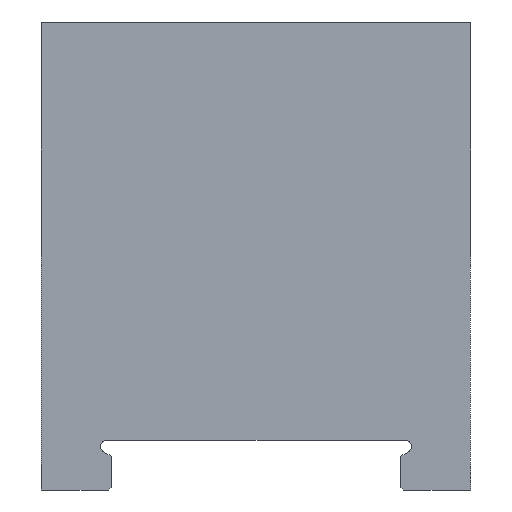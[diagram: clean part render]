
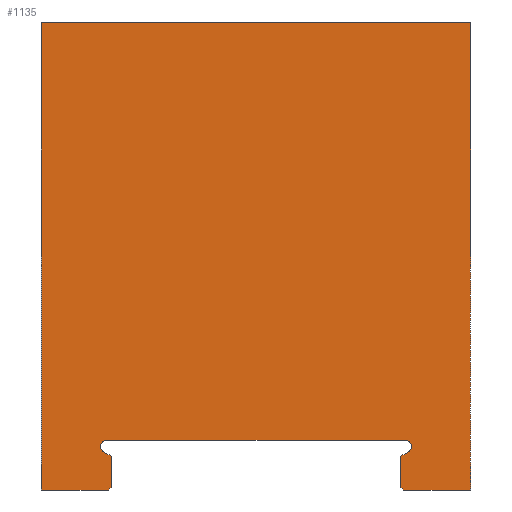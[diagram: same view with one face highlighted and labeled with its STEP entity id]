
A CAD part, front view. The second image highlights one B-rep face of the part: STEP entity #1135.
In plain terms, the highlighted planar face has unit normal (0, -1, 0).
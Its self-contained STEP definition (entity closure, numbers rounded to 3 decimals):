
#3 = CARTESIAN_POINT ( 'NONE',  ( -38.5, -62.5, 84. ) ) ;
#26 = VERTEX_POINT ( 'NONE', #567 ) ;
#28 = CARTESIAN_POINT ( 'NONE',  ( 38.5, -62.5, 84. ) ) ;
#31 = CARTESIAN_POINT ( 'NONE',  ( -26., -62.5, 0.5 ) ) ;
#45 = DIRECTION ( 'NONE',  ( 1., 0., 0. ) ) ;
#59 = EDGE_CURVE ( 'NONE', #993, #337, #917, .T. ) ;
#61 = ORIENTED_EDGE ( 'NONE', *, *, #1255, .T. ) ;
#66 = VERTEX_POINT ( 'NONE', #584 ) ;
#81 = DIRECTION ( 'NONE',  ( 0.707, 0., 0.707 ) ) ;
#88 = DIRECTION ( 'NONE',  ( 1., 0., 0. ) ) ;
#98 = VECTOR ( 'NONE', #804, 1000. ) ;
#100 = ORIENTED_EDGE ( 'NONE', *, *, #305, .F. ) ;
#107 = ORIENTED_EDGE ( 'NONE', *, *, #531, .F. ) ;
#122 = CARTESIAN_POINT ( 'NONE',  ( 38.5, -62.5, 84. ) ) ;
#135 = DIRECTION ( 'NONE',  ( 0., 0., 1. ) ) ;
#141 = CARTESIAN_POINT ( 'NONE',  ( -26.795, -62.5, 8.9 ) ) ;
#168 = CARTESIAN_POINT ( 'NONE',  ( -26.5, -62.5, 0. ) ) ;
#185 = ORIENTED_EDGE ( 'NONE', *, *, #808, .F. ) ;
#196 = VECTOR ( 'NONE', #896, 1000. ) ;
#233 = CARTESIAN_POINT ( 'NONE',  ( 26., -62.5, 0.5 ) ) ;
#267 = DIRECTION ( 'NONE',  ( 1., 0., 0. ) ) ;
#285 = CARTESIAN_POINT ( 'NONE',  ( 26.5, -62.5, 0. ) ) ;
#305 = EDGE_CURVE ( 'NONE', #1188, #1122, #675, .T. ) ;
#306 = LINE ( 'NONE', #867, #679 ) ;
#337 = VERTEX_POINT ( 'NONE', #630 ) ;
#350 = CARTESIAN_POINT ( 'NONE',  ( -26.795, -62.5, 7.8 ) ) ;
#364 = DIRECTION ( 'NONE',  ( 0., 0., 1. ) ) ;
#366 = DIRECTION ( 'NONE',  ( 0., 0., 1. ) ) ;
#378 = ORIENTED_EDGE ( 'NONE', *, *, #525, .T. ) ;
#398 = LINE ( 'NONE', #764, #735 ) ;
#435 = CARTESIAN_POINT ( 'NONE',  ( -26., -62.5, 6.071 ) ) ;
#437 = EDGE_CURVE ( 'NONE', #1170, #448, #1173, .T. ) ;
#448 = VERTEX_POINT ( 'NONE', #141 ) ;
#504 = CIRCLE ( 'NONE', #1072, 1.1 ) ;
#508 = CARTESIAN_POINT ( 'NONE',  ( -38.5, -62.5, 84. ) ) ;
#515 = LINE ( 'NONE', #1207, #98 ) ;
#525 = EDGE_CURVE ( 'NONE', #337, #861, #398, .T. ) ;
#531 = EDGE_CURVE ( 'NONE', #26, #1075, #306, .T. ) ;
#535 = CARTESIAN_POINT ( 'NONE',  ( 26.795, -62.5, 7.8 ) ) ;
#540 = CARTESIAN_POINT ( 'NONE',  ( 26.795, -62.5, 8.9 ) ) ;
#542 = ORIENTED_EDGE ( 'NONE', *, *, #823, .F. ) ;
#544 = DIRECTION ( 'NONE',  ( 0.866, 0., 0.5 ) ) ;
#560 = VECTOR ( 'NONE', #88, 1000. ) ;
#567 = CARTESIAN_POINT ( 'NONE',  ( 26., -62.5, 6.071 ) ) ;
#570 = ORIENTED_EDGE ( 'NONE', *, *, #627, .F. ) ;
#584 = CARTESIAN_POINT ( 'NONE',  ( -27.345, -62.5, 6.847 ) ) ;
#627 = EDGE_CURVE ( 'NONE', #448, #66, #858, .T. ) ;
#630 = CARTESIAN_POINT ( 'NONE',  ( 26.5, -62.5, 0. ) ) ;
#675 = LINE ( 'NONE', #1046, #1291 ) ;
#678 = VERTEX_POINT ( 'NONE', #776 ) ;
#679 = VECTOR ( 'NONE', #544, 1000. ) ;
#691 = ORIENTED_EDGE ( 'NONE', *, *, #740, .T. ) ;
#714 = VECTOR ( 'NONE', #267, 1000. ) ;
#723 = CARTESIAN_POINT ( 'NONE',  ( 38.5, -62.5, 0. ) ) ;
#735 = VECTOR ( 'NONE', #45, 1000. ) ;
#740 = EDGE_CURVE ( 'NONE', #874, #930, #515, .T. ) ;
#761 = CARTESIAN_POINT ( 'NONE',  ( -38.5, -62.5, 84. ) ) ;
#764 = CARTESIAN_POINT ( 'NONE',  ( -38.5, -62.5, 0. ) ) ;
#774 = ORIENTED_EDGE ( 'NONE', *, *, #437, .F. ) ;
#776 = CARTESIAN_POINT ( 'NONE',  ( -26.5, -62.5, 0. ) ) ;
#777 = EDGE_CURVE ( 'NONE', #678, #1122, #1260, .T. ) ;
#778 = DIRECTION ( 'NONE',  ( 0., -1., 0. ) ) ;
#788 = DIRECTION ( 'NONE',  ( 0., -1., 0. ) ) ;
#804 = DIRECTION ( 'NONE',  ( 0., 0., -1. ) ) ;
#808 = EDGE_CURVE ( 'NONE', #66, #1188, #986, .T. ) ;
#809 = AXIS2_PLACEMENT_3D ( 'NONE', #350, #788, #366 ) ;
#815 = CARTESIAN_POINT ( 'NONE',  ( -26., -62.5, 6.071 ) ) ;
#820 = FACE_OUTER_BOUND ( 'NONE', #1154, .T. ) ;
#823 = EDGE_CURVE ( 'NONE', #874, #1092, #1224, .T. ) ;
#829 = VECTOR ( 'NONE', #364, 1000. ) ;
#858 = CIRCLE ( 'NONE', #809, 1.1 ) ;
#861 = VERTEX_POINT ( 'NONE', #723 ) ;
#867 = CARTESIAN_POINT ( 'NONE',  ( 26., -62.5, 6.071 ) ) ;
#874 = VERTEX_POINT ( 'NONE', #3 ) ;
#892 = ORIENTED_EDGE ( 'NONE', *, *, #1310, .F. ) ;
#896 = DIRECTION ( 'NONE',  ( 0.707, 0., -0.707 ) ) ;
#905 = ORIENTED_EDGE ( 'NONE', *, *, #59, .T. ) ;
#917 = LINE ( 'NONE', #285, #196 ) ;
#930 = VERTEX_POINT ( 'NONE', #1132 ) ;
#932 = VECTOR ( 'NONE', #1157, 1000. ) ;
#956 = CARTESIAN_POINT ( 'NONE',  ( 26.795, -62.5, 8.9 ) ) ;
#959 = DIRECTION ( 'NONE',  ( 0., 1., 0. ) ) ;
#963 = DIRECTION ( 'NONE',  ( 0., 0., -1. ) ) ;
#986 = LINE ( 'NONE', #815, #1307 ) ;
#987 = ORIENTED_EDGE ( 'NONE', *, *, #1118, .F. ) ;
#989 = LINE ( 'NONE', #28, #1116 ) ;
#993 = VERTEX_POINT ( 'NONE', #233 ) ;
#1013 = ORIENTED_EDGE ( 'NONE', *, *, #1106, .F. ) ;
#1036 = VECTOR ( 'NONE', #81, 1000. ) ;
#1046 = CARTESIAN_POINT ( 'NONE',  ( -26., -62.5, -7. ) ) ;
#1056 = CARTESIAN_POINT ( 'NONE',  ( 27.345, -62.5, 6.847 ) ) ;
#1072 = AXIS2_PLACEMENT_3D ( 'NONE', #535, #778, #1272 ) ;
#1075 = VERTEX_POINT ( 'NONE', #1056 ) ;
#1089 = CARTESIAN_POINT ( 'NONE',  ( -38.5, -62.5, 0. ) ) ;
#1090 = ORIENTED_EDGE ( 'NONE', *, *, #777, .T. ) ;
#1092 = VERTEX_POINT ( 'NONE', #122 ) ;
#1100 = DIRECTION ( 'NONE',  ( 0.866, 0., -0.5 ) ) ;
#1106 = EDGE_CURVE ( 'NONE', #1075, #1170, #504, .T. ) ;
#1116 = VECTOR ( 'NONE', #963, 1000. ) ;
#1118 = EDGE_CURVE ( 'NONE', #1092, #861, #989, .T. ) ;
#1122 = VERTEX_POINT ( 'NONE', #31 ) ;
#1132 = CARTESIAN_POINT ( 'NONE',  ( -38.5, -62.5, 0. ) ) ;
#1133 = AXIS2_PLACEMENT_3D ( 'NONE', #761, #959, #135 ) ;
#1135 = ADVANCED_FACE ( 'NONE', ( #820 ), #1265, .F. ) ;
#1152 = DIRECTION ( 'NONE',  ( 0., 0., -1. ) ) ;
#1154 = EDGE_LOOP ( 'NONE', ( #892, #905, #378, #987, #542, #691, #61, #1090, #100, #185, #570, #774, #1013, #107 ) ) ;
#1157 = DIRECTION ( 'NONE',  ( -1., 0., 0. ) ) ;
#1170 = VERTEX_POINT ( 'NONE', #540 ) ;
#1173 = LINE ( 'NONE', #956, #932 ) ;
#1188 = VERTEX_POINT ( 'NONE', #435 ) ;
#1207 = CARTESIAN_POINT ( 'NONE',  ( -38.5, -62.5, 84. ) ) ;
#1224 = LINE ( 'NONE', #508, #560 ) ;
#1255 = EDGE_CURVE ( 'NONE', #930, #678, #1293, .T. ) ;
#1256 = LINE ( 'NONE', #1298, #829 ) ;
#1260 = LINE ( 'NONE', #168, #1036 ) ;
#1265 = PLANE ( 'NONE',  #1133 ) ;
#1272 = DIRECTION ( 'NONE',  ( 0., 0., 1. ) ) ;
#1291 = VECTOR ( 'NONE', #1152, 1000. ) ;
#1293 = LINE ( 'NONE', #1089, #714 ) ;
#1298 = CARTESIAN_POINT ( 'NONE',  ( 26., -62.5, -7. ) ) ;
#1307 = VECTOR ( 'NONE', #1100, 1000. ) ;
#1310 = EDGE_CURVE ( 'NONE', #993, #26, #1256, .T. ) ;
